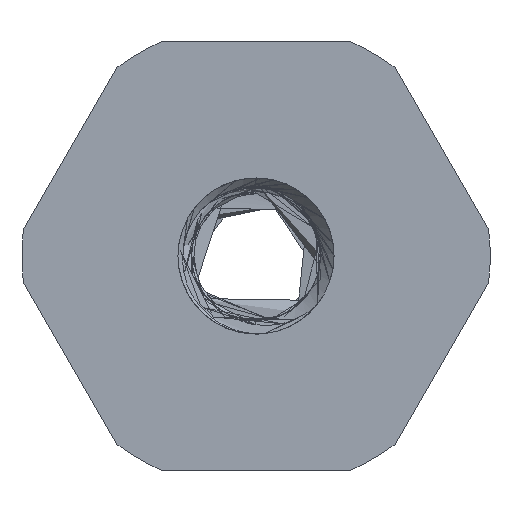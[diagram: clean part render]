
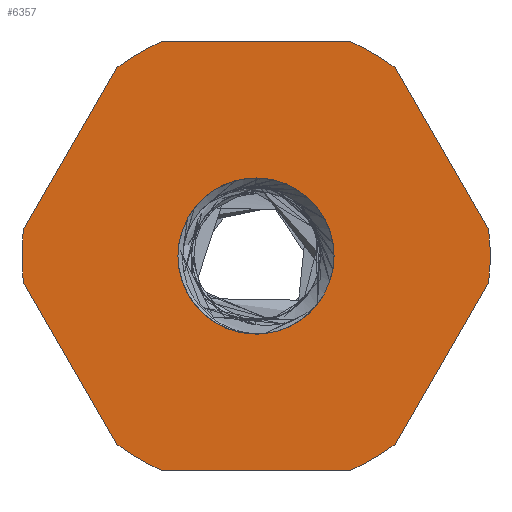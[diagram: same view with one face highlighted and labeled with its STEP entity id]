
A CAD part, front view. The second image highlights one B-rep face of the part: STEP entity #6357.
In plain terms, the highlighted planar face has unit normal (0, -1, 0).
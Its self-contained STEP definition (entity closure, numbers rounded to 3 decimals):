
#149 = CIRCLE ( 'NONE', #6061, 6. ) ;
#329 = VERTEX_POINT ( 'NONE', #5454 ) ;
#338 = EDGE_CURVE ( 'NONE', #1672, #4489, #10320, .T. ) ;
#524 = ORIENTED_EDGE ( 'NONE', *, *, #12100, .F. ) ;
#567 = CARTESIAN_POINT ( 'NONE',  ( 0., 0., 0. ) ) ;
#586 = CARTESIAN_POINT ( 'NONE',  ( 3.564, 0., 4.827 ) ) ;
#638 = DIRECTION ( 'NONE',  ( 0., 1., 0. ) ) ;
#640 = DIRECTION ( 'NONE',  ( 0., 1., 0. ) ) ;
#660 = DIRECTION ( 'NONE',  ( 0., 0., 1. ) ) ;
#708 = LINE ( 'NONE', #759, #3509 ) ;
#759 = CARTESIAN_POINT ( 'NONE',  ( -4.763, 0., -2.75 ) ) ;
#848 = VECTOR ( 'NONE', #7939, 1000. ) ;
#867 = DIRECTION ( 'NONE',  ( 0., 0., 1. ) ) ;
#875 = VERTEX_POINT ( 'NONE', #586 ) ;
#1267 = ORIENTED_EDGE ( 'NONE', *, *, #7432, .F. ) ;
#1309 = EDGE_CURVE ( 'NONE', #4489, #4938, #2099, .T. ) ;
#1390 = CARTESIAN_POINT ( 'NONE',  ( -3.564, 0., -4.827 ) ) ;
#1418 = CIRCLE ( 'NONE', #7273, 2. ) ;
#1554 = DIRECTION ( 'NONE',  ( 0., 0., 1. ) ) ;
#1559 = VERTEX_POINT ( 'NONE', #1729 ) ;
#1568 = CARTESIAN_POINT ( 'NONE',  ( 0., 0., 5.5 ) ) ;
#1672 = VERTEX_POINT ( 'NONE', #5920 ) ;
#1729 = CARTESIAN_POINT ( 'NONE',  ( -2.398, 0., 5.5 ) ) ;
#1898 = EDGE_LOOP ( 'NONE', ( #2400, #6019, #2134, #7490, #2836, #10329, #1267, #3724, #2033, #3927, #524, #7257 ) ) ;
#1958 = EDGE_CURVE ( 'NONE', #329, #8347, #9671, .T. ) ;
#1965 = DIRECTION ( 'NONE',  ( 0., 1., 0. ) ) ;
#2033 = ORIENTED_EDGE ( 'NONE', *, *, #338, .F. ) ;
#2099 = CIRCLE ( 'NONE', #10692, 6. ) ;
#2134 = ORIENTED_EDGE ( 'NONE', *, *, #11178, .F. ) ;
#2152 = AXIS2_PLACEMENT_3D ( 'NONE', #567, #9055, #1554 ) ;
#2300 = CARTESIAN_POINT ( 'NONE',  ( 0., 0., 2. ) ) ;
#2340 = CARTESIAN_POINT ( 'NONE',  ( -3.564, 0., 4.827 ) ) ;
#2400 = ORIENTED_EDGE ( 'NONE', *, *, #6684, .F. ) ;
#2601 = ORIENTED_EDGE ( 'NONE', *, *, #1958, .T. ) ;
#2836 = ORIENTED_EDGE ( 'NONE', *, *, #11218, .F. ) ;
#2924 = DIRECTION ( 'NONE',  ( -1., 0., 0. ) ) ;
#3051 = EDGE_LOOP ( 'NONE', ( #7065, #11992, #2601, #7930 ) ) ;
#3211 = CIRCLE ( 'NONE', #9131, 2. ) ;
#3279 = DIRECTION ( 'NONE',  ( 0., 1., 0. ) ) ;
#3348 = DIRECTION ( 'NONE',  ( 0., 1., 0. ) ) ;
#3467 = FACE_BOUND ( 'NONE', #3051, .T. ) ;
#3473 = CARTESIAN_POINT ( 'NONE',  ( 0., 0., 0. ) ) ;
#3509 = VECTOR ( 'NONE', #8341, 1000. ) ;
#3600 = CARTESIAN_POINT ( 'NONE',  ( 0., 0., 0. ) ) ;
#3641 = CARTESIAN_POINT ( 'NONE',  ( 0., 0., 0. ) ) ;
#3664 = CIRCLE ( 'NONE', #7461, 6. ) ;
#3724 = ORIENTED_EDGE ( 'NONE', *, *, #1309, .F. ) ;
#3824 = CARTESIAN_POINT ( 'NONE',  ( 0., 0., 0. ) ) ;
#3855 = DIRECTION ( 'NONE',  ( 0., 1., 0. ) ) ;
#3927 = ORIENTED_EDGE ( 'NONE', *, *, #4583, .F. ) ;
#4056 = VERTEX_POINT ( 'NONE', #5815 ) ;
#4209 = CIRCLE ( 'NONE', #8531, 2. ) ;
#4262 = CARTESIAN_POINT ( 'NONE',  ( -2.398, 0., -5.5 ) ) ;
#4484 = CARTESIAN_POINT ( 'NONE',  ( 4.763, 0., -2.75 ) ) ;
#4489 = VERTEX_POINT ( 'NONE', #7493 ) ;
#4493 = VERTEX_POINT ( 'NONE', #8485 ) ;
#4543 = DIRECTION ( 'NONE',  ( 0., 0., 1. ) ) ;
#4583 = EDGE_CURVE ( 'NONE', #12238, #1672, #7795, .T. ) ;
#4600 = DIRECTION ( 'NONE',  ( 0., 1., 0. ) ) ;
#4684 = LINE ( 'NONE', #11002, #7813 ) ;
#4787 = VERTEX_POINT ( 'NONE', #10466 ) ;
#4938 = VERTEX_POINT ( 'NONE', #6265 ) ;
#5147 = CARTESIAN_POINT ( 'NONE',  ( 0., 0., 0. ) ) ;
#5387 = EDGE_CURVE ( 'NONE', #7343, #329, #1418, .T. ) ;
#5391 = LINE ( 'NONE', #1568, #5975 ) ;
#5454 = CARTESIAN_POINT ( 'NONE',  ( 0., 0., -2. ) ) ;
#5651 = EDGE_CURVE ( 'NONE', #8347, #4787, #4209, .T. ) ;
#5797 = EDGE_CURVE ( 'NONE', #4493, #875, #11807, .T. ) ;
#5815 = CARTESIAN_POINT ( 'NONE',  ( -5.962, 0., 0.673 ) ) ;
#5920 = CARTESIAN_POINT ( 'NONE',  ( 5.962, 0., -0.673 ) ) ;
#5975 = VECTOR ( 'NONE', #8205, 1000. ) ;
#6019 = ORIENTED_EDGE ( 'NONE', *, *, #10865, .F. ) ;
#6061 = AXIS2_PLACEMENT_3D ( 'NONE', #3473, #638, #12043 ) ;
#6236 = PLANE ( 'NONE',  #2152 ) ;
#6265 = CARTESIAN_POINT ( 'NONE',  ( 2.398, 0., -5.5 ) ) ;
#6357 = ADVANCED_FACE ( 'NONE', ( #3467, #10742 ), #6236, .F. ) ;
#6448 = VERTEX_POINT ( 'NONE', #4262 ) ;
#6684 = EDGE_CURVE ( 'NONE', #1559, #4493, #5391, .T. ) ;
#7065 = ORIENTED_EDGE ( 'NONE', *, *, #11087, .T. ) ;
#7121 = CARTESIAN_POINT ( 'NONE',  ( 0., 0., 0. ) ) ;
#7257 = ORIENTED_EDGE ( 'NONE', *, *, #5797, .F. ) ;
#7273 = AXIS2_PLACEMENT_3D ( 'NONE', #8738, #1965, #10436 ) ;
#7276 = DIRECTION ( 'NONE',  ( 0., 0., 1. ) ) ;
#7279 = VERTEX_POINT ( 'NONE', #2340 ) ;
#7343 = VERTEX_POINT ( 'NONE', #9210 ) ;
#7432 = EDGE_CURVE ( 'NONE', #4938, #6448, #11330, .T. ) ;
#7461 = AXIS2_PLACEMENT_3D ( 'NONE', #3641, #10245, #7276 ) ;
#7490 = ORIENTED_EDGE ( 'NONE', *, *, #11294, .F. ) ;
#7493 = CARTESIAN_POINT ( 'NONE',  ( 3.564, 0., -4.827 ) ) ;
#7617 = EDGE_CURVE ( 'NONE', #6448, #7747, #149, .T. ) ;
#7669 = CARTESIAN_POINT ( 'NONE',  ( 0., 0., -5.5 ) ) ;
#7747 = VERTEX_POINT ( 'NONE', #1390 ) ;
#7795 = CIRCLE ( 'NONE', #9542, 6. ) ;
#7813 = VECTOR ( 'NONE', #8091, 1000. ) ;
#7930 = ORIENTED_EDGE ( 'NONE', *, *, #5651, .T. ) ;
#7939 = DIRECTION ( 'NONE',  ( 0.5, 0., -0.866 ) ) ;
#8091 = DIRECTION ( 'NONE',  ( 0.5, 0., 0.866 ) ) ;
#8184 = DIRECTION ( 'NONE',  ( 0., 0., 1. ) ) ;
#8205 = DIRECTION ( 'NONE',  ( 1., 0., 0. ) ) ;
#8341 = DIRECTION ( 'NONE',  ( -0.5, 0., 0.866 ) ) ;
#8347 = VERTEX_POINT ( 'NONE', #2300 ) ;
#8485 = CARTESIAN_POINT ( 'NONE',  ( 2.398, 0., 5.5 ) ) ;
#8531 = AXIS2_PLACEMENT_3D ( 'NONE', #5147, #11817, #660 ) ;
#8668 = DIRECTION ( 'NONE',  ( 0., 0., 1. ) ) ;
#8685 = VECTOR ( 'NONE', #11482, 1000. ) ;
#8711 = CARTESIAN_POINT ( 'NONE',  ( 0., 0., 0. ) ) ;
#8738 = CARTESIAN_POINT ( 'NONE',  ( 0., 0., 0. ) ) ;
#9055 = DIRECTION ( 'NONE',  ( 0., 1., 0. ) ) ;
#9131 = AXIS2_PLACEMENT_3D ( 'NONE', #11882, #3348, #8184 ) ;
#9188 = CIRCLE ( 'NONE', #9373, 6. ) ;
#9210 = CARTESIAN_POINT ( 'NONE',  ( 0.239, 0., -1.986 ) ) ;
#9373 = AXIS2_PLACEMENT_3D ( 'NONE', #8711, #11504, #8668 ) ;
#9542 = AXIS2_PLACEMENT_3D ( 'NONE', #3824, #3855, #11517 ) ;
#9671 = CIRCLE ( 'NONE', #12321, 2. ) ;
#9792 = AXIS2_PLACEMENT_3D ( 'NONE', #10463, #4600, #867 ) ;
#9901 = LINE ( 'NONE', #11772, #848 ) ;
#10245 = DIRECTION ( 'NONE',  ( 0., 1., 0. ) ) ;
#10320 = LINE ( 'NONE', #4484, #8685 ) ;
#10329 = ORIENTED_EDGE ( 'NONE', *, *, #7617, .F. ) ;
#10436 = DIRECTION ( 'NONE',  ( 0., 0., 1. ) ) ;
#10463 = CARTESIAN_POINT ( 'NONE',  ( 0., 0., 0. ) ) ;
#10466 = CARTESIAN_POINT ( 'NONE',  ( 1.553, 0., -1.261 ) ) ;
#10692 = AXIS2_PLACEMENT_3D ( 'NONE', #7121, #3279, #10892 ) ;
#10702 = VECTOR ( 'NONE', #2924, 1000. ) ;
#10742 = FACE_OUTER_BOUND ( 'NONE', #1898, .T. ) ;
#10865 = EDGE_CURVE ( 'NONE', #7279, #1559, #9188, .T. ) ;
#10892 = DIRECTION ( 'NONE',  ( 0., 0., 1. ) ) ;
#11002 = CARTESIAN_POINT ( 'NONE',  ( -4.763, 0., 2.75 ) ) ;
#11087 = EDGE_CURVE ( 'NONE', #4787, #7343, #3211, .T. ) ;
#11131 = CARTESIAN_POINT ( 'NONE',  ( -5.962, 0., -0.673 ) ) ;
#11178 = EDGE_CURVE ( 'NONE', #4056, #7279, #4684, .T. ) ;
#11218 = EDGE_CURVE ( 'NONE', #7747, #11324, #708, .T. ) ;
#11294 = EDGE_CURVE ( 'NONE', #11324, #4056, #3664, .T. ) ;
#11324 = VERTEX_POINT ( 'NONE', #11131 ) ;
#11330 = LINE ( 'NONE', #7669, #10702 ) ;
#11482 = DIRECTION ( 'NONE',  ( -0.5, 0., -0.866 ) ) ;
#11504 = DIRECTION ( 'NONE',  ( 0., 1., 0. ) ) ;
#11517 = DIRECTION ( 'NONE',  ( 0., 0., 1. ) ) ;
#11772 = CARTESIAN_POINT ( 'NONE',  ( 4.763, 0., 2.75 ) ) ;
#11807 = CIRCLE ( 'NONE', #9792, 6. ) ;
#11817 = DIRECTION ( 'NONE',  ( 0., 1., 0. ) ) ;
#11882 = CARTESIAN_POINT ( 'NONE',  ( 0., 0., 0. ) ) ;
#11992 = ORIENTED_EDGE ( 'NONE', *, *, #5387, .T. ) ;
#12043 = DIRECTION ( 'NONE',  ( 0., 0., 1. ) ) ;
#12086 = CARTESIAN_POINT ( 'NONE',  ( 5.962, 0., 0.673 ) ) ;
#12100 = EDGE_CURVE ( 'NONE', #875, #12238, #9901, .T. ) ;
#12238 = VERTEX_POINT ( 'NONE', #12086 ) ;
#12321 = AXIS2_PLACEMENT_3D ( 'NONE', #3600, #640, #4543 ) ;
